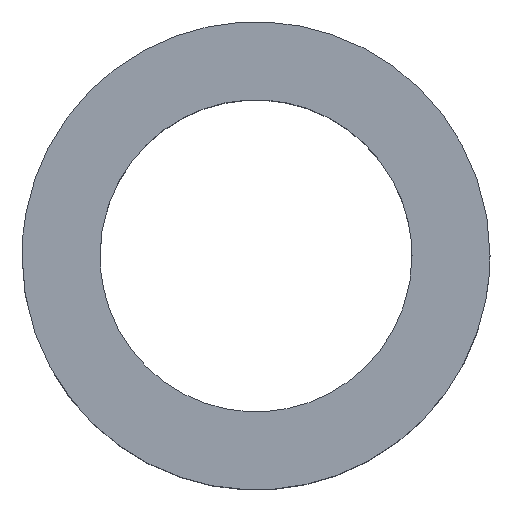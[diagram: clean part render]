
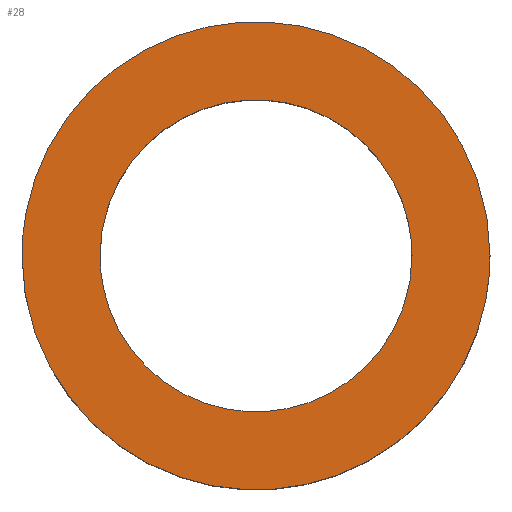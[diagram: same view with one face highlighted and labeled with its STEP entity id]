
A CAD part, top view. The second image highlights one B-rep face of the part: STEP entity #28.
In plain terms, the highlighted planar face has unit normal (0, 0, 1).
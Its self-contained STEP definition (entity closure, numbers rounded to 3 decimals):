
#25=FACE_BOUND('',#42,.T.);
#28=ADVANCED_FACE('',(#34,#25),#103,.T.);
#34=FACE_OUTER_BOUND('',#41,.T.);
#41=EDGE_LOOP('',(#54,#55));
#42=EDGE_LOOP('',(#56,#57));
#54=ORIENTED_EDGE('',*,*,#72,.T.);
#55=ORIENTED_EDGE('',*,*,#78,.T.);
#56=ORIENTED_EDGE('',*,*,#74,.T.);
#57=ORIENTED_EDGE('',*,*,#81,.T.);
#72=EDGE_CURVE('',#95,#99,#84,.T.);
#74=EDGE_CURVE('',#97,#101,#86,.T.);
#78=EDGE_CURVE('',#99,#95,#90,.T.);
#81=EDGE_CURVE('',#101,#97,#93,.T.);
#84=(
BOUNDED_CURVE()
B_SPLINE_CURVE(2,(#195,#196,#197,#198,#199),.UNSPECIFIED.,.F.,.F.)
B_SPLINE_CURVE_WITH_KNOTS((3,2,3),(0.,37.699,75.398),
 .UNSPECIFIED.)
CURVE()
GEOMETRIC_REPRESENTATION_ITEM()
RATIONAL_B_SPLINE_CURVE((1.,0.707,1.,0.707,1.))
REPRESENTATION_ITEM('')
);
#86=(
BOUNDED_CURVE()
B_SPLINE_CURVE(2,(#205,#206,#207,#208,#209),.UNSPECIFIED.,.F.,.F.)
B_SPLINE_CURVE_WITH_KNOTS((3,2,3),(-100.531,-75.398,
-50.265),.UNSPECIFIED.)
CURVE()
GEOMETRIC_REPRESENTATION_ITEM()
RATIONAL_B_SPLINE_CURVE((1.,0.707,1.,0.707,1.))
REPRESENTATION_ITEM('')
);
#90=(
BOUNDED_CURVE()
B_SPLINE_CURVE(2,(#219,#220,#221,#222,#223),.UNSPECIFIED.,.F.,.F.)
B_SPLINE_CURVE_WITH_KNOTS((3,2,3),(75.398,113.097,150.796),
 .UNSPECIFIED.)
CURVE()
GEOMETRIC_REPRESENTATION_ITEM()
RATIONAL_B_SPLINE_CURVE((1.,0.707,1.,0.707,1.))
REPRESENTATION_ITEM('')
);
#93=(
BOUNDED_CURVE()
B_SPLINE_CURVE(2,(#231,#232,#233,#234,#235),.UNSPECIFIED.,.F.,.F.)
B_SPLINE_CURVE_WITH_KNOTS((3,2,3),(-50.265,-25.133,
0.),.UNSPECIFIED.)
CURVE()
GEOMETRIC_REPRESENTATION_ITEM()
RATIONAL_B_SPLINE_CURVE((1.,0.707,1.,0.707,1.))
REPRESENTATION_ITEM('')
);
#95=VERTEX_POINT('',#181);
#97=VERTEX_POINT('',#183);
#99=VERTEX_POINT('',#185);
#101=VERTEX_POINT('',#187);
#103=PLANE('',#129);
#129=AXIS2_PLACEMENT_3D('',#149,#134,$);
#134=DIRECTION('',(0.,0.,1.));
#149=CARTESIAN_POINT('',(-30.,-30.,20.));
#181=CARTESIAN_POINT('',(24.,0.,20.));
#183=CARTESIAN_POINT('',(16.,0.,20.));
#185=CARTESIAN_POINT('',(-24.,0.,20.));
#187=CARTESIAN_POINT('',(-16.,0.,20.));
#195=CARTESIAN_POINT('',(24.,0.,20.));
#196=CARTESIAN_POINT('',(24.,24.,20.));
#197=CARTESIAN_POINT('',(0.,24.,20.));
#198=CARTESIAN_POINT('',(-24.,24.,20.));
#199=CARTESIAN_POINT('',(-24.,0.,20.));
#205=CARTESIAN_POINT('',(16.,0.,20.));
#206=CARTESIAN_POINT('',(16.,-16.,20.));
#207=CARTESIAN_POINT('',(0.,-16.,20.));
#208=CARTESIAN_POINT('',(-16.,-16.,20.));
#209=CARTESIAN_POINT('',(-16.,0.,20.));
#219=CARTESIAN_POINT('',(-24.,0.,20.));
#220=CARTESIAN_POINT('',(-24.,-24.,20.));
#221=CARTESIAN_POINT('',(0.,-24.,20.));
#222=CARTESIAN_POINT('',(24.,-24.,20.));
#223=CARTESIAN_POINT('',(24.,0.,20.));
#231=CARTESIAN_POINT('',(-16.,0.,20.));
#232=CARTESIAN_POINT('',(-16.,16.,20.));
#233=CARTESIAN_POINT('',(0.,16.,20.));
#234=CARTESIAN_POINT('',(16.,16.,20.));
#235=CARTESIAN_POINT('',(16.,0.,20.));
